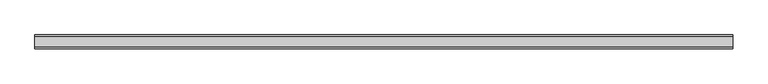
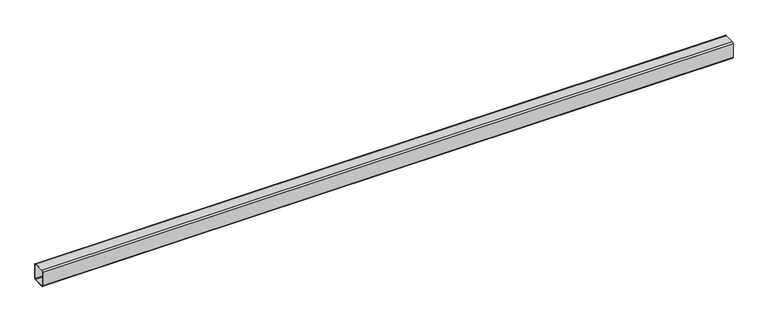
"""IFC4 building model written with IfcOpenShell, lengths in millimetres: beam geometry, Труба прямоугольного сечения (ТУ 67-2287-80) Балки : труба200x160x8."""

from ifc_helpers import new_model, si_unit, point, frame, frame_2d, origin, place, context, project, spatial, polyline, circle_curve, trimmed, segment, composite_curve, outline, extrude, source, transform, mapped, element, save


def beam_8ed5c4f5(model_context):
    return source(origin(), model_context, "Body", "SweptSolid", [
        extrude(outline(composite_curve([segment(polyline([(-64.0, 100.0), (64.0, 100.0)]), True, "CONTINUOUS"), segment(trimmed(circle_curve(frame_2d((64.0, 84.0)), 16.0), [point((64.0, 100.0))], [point((80.0, 84.0))], False, "CARTESIAN"), True, "CONTINUOUS"), segment(polyline([(80.0, 84.0), (80.0, -84.0)]), True, "CONTINUOUS"), segment(trimmed(circle_curve(frame_2d((64.0, -84.0)), 16.0), [point((80.0, -84.0))], [point((64.0, -100.0))], False, "CARTESIAN"), True, "CONTINUOUS"), segment(polyline([(64.0, -100.0), (-64.0, -100.0)]), True, "CONTINUOUS"), segment(trimmed(circle_curve(frame_2d((-64.0, -84.0)), 16.0), [point((-64.0, -100.0))], [point((-80.0, -84.0))], False, "CARTESIAN"), True, "CONTINUOUS"), segment(polyline([(-80.0, -84.0), (-80.0, 84.0)]), True, "CONTINUOUS"), segment(trimmed(circle_curve(frame_2d((-64.0, 84.0)), 16.0), [point((-80.0, 84.0))], [point((-64.0, 100.0))], False, "CARTESIAN"), True, "CONTINUOUS")], self_intersect=False), holes=[composite_curve([segment(trimmed(circle_curve(frame_2d((-64.0, 84.0)), 8.0), [point((-64.0, 92.0))], [point((-72.0, 84.0))], True, "CARTESIAN"), True, "CONTINUOUS"), segment(polyline([(-72.0, 84.0), (-72.0, -84.0)]), True, "CONTINUOUS"), segment(trimmed(circle_curve(frame_2d((-64.0, -84.0)), 8.0), [point((-72.0, -84.0))], [point((-64.0, -92.0))], True, "CARTESIAN"), True, "CONTINUOUS"), segment(polyline([(-64.0, -92.0), (64.0, -92.0)]), True, "CONTINUOUS"), segment(trimmed(circle_curve(frame_2d((64.0, -84.0)), 8.0), [point((64.0, -92.0))], [point((72.0, -84.0))], True, "CARTESIAN"), True, "CONTINUOUS"), segment(polyline([(72.0, -84.0), (72.0, 84.0)]), True, "CONTINUOUS"), segment(trimmed(circle_curve(frame_2d((64.0, 84.0)), 8.0), [point((72.0, 84.0))], [point((64.0, 92.0))], True, "CARTESIAN"), True, "CONTINUOUS"), segment(polyline([(64.0, 92.0), (-64.0, 92.0)]), True, "CONTINUOUS")], self_intersect=False)]), frame((-4119.5, 0.0, 0.0), z_axis=(1.0, 0.0, 0.0), x_axis=(0.0, 1.0, 0.0)), (0.0, 0.0, 1.0), 8159.0),
    ])


if __name__ == "__main__":
    model = new_model("IFC4")
    model_context = context("Model", 3, world=origin())
    ifc_project = project(units=[si_unit("LENGTHUNIT", "METRE", prefix="MILLI")], contexts=[model_context])
    site = spatial("IfcSite", under=ifc_project)
    building = spatial("IfcBuilding", under=site)
    placement = place(None, origin())
    beam_shape = beam_8ed5c4f5(model_context)
    element("IfcBeam", 1, ObjectType="Труба прямоугольного сечения (ТУ 67-2287-80) Балки : труба200x160x8", at=placement, inside=building, context=model_context, shape_type="MappedRepresentation", body=[
        mapped(beam_shape, transform((0.0, 0.0, 0.0), x_axis=(1.0, 0.0, 0.0), y_axis=(0.0, 1.0, 0.0), z_axis=(0.0, 0.0, 1.0))),
    ])
    save(model, "model.ifc")
